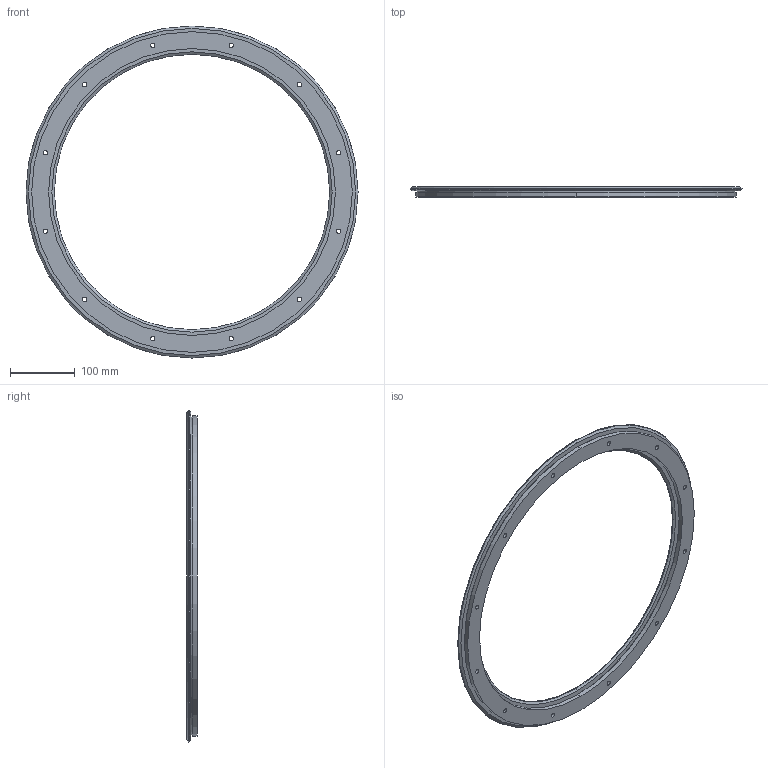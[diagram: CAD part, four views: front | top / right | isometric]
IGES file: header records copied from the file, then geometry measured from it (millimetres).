
Start section: 3D InterOp IGES (v. 2018 1.0.2), Spatial Corp. Copyright (c) 1999-2017.
Global section: file name: r44_468_r360.igs; native system: Spatial Corp.; preprocessor: 3D InterOp ACIS/IGES; author: TraceParts; organization: TraceParts S.A.; date: 20200717.063248; units: millimetre
Bounding box: 511.61 x 15.5 x 511.61 mm (x, y, z)
Surface area: 182465.6 mm2 (no closed solid volume)
Topology: 0 solids, 0 shells, 90 faces, 408 edges, 408 vertices
Faces by surface type: revolution 72, extrusion 18
